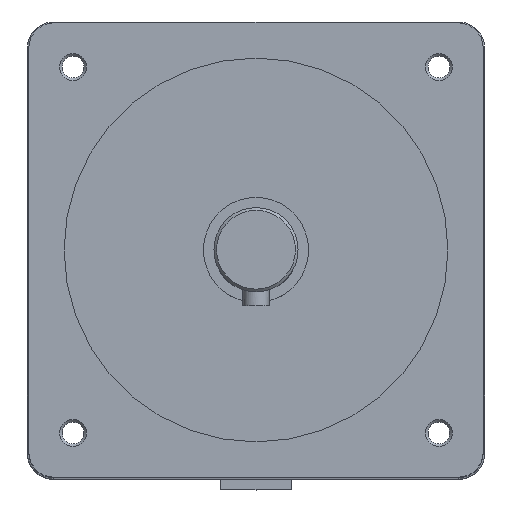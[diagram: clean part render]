
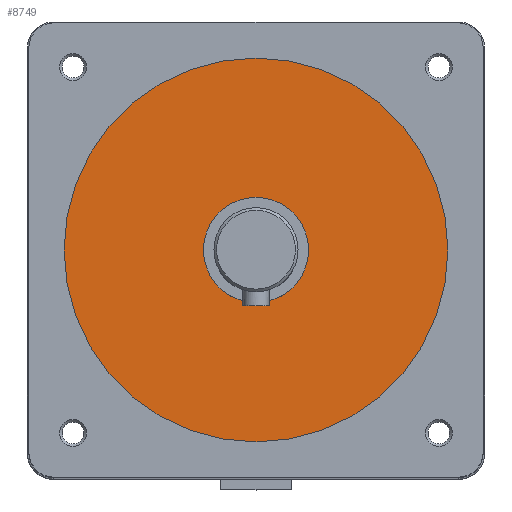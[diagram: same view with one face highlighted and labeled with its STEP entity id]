
A CAD part, top view. The second image highlights one B-rep face of the part: STEP entity #8749.
In plain terms, the highlighted planar face has unit normal (0, 0, 1).
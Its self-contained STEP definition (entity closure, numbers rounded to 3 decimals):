
#2241=FACE_BOUND('',#3158,.T.);
#2613=FACE_OUTER_BOUND('',#3157,.T.);
#3157=EDGE_LOOP('',(#7433));
#3158=EDGE_LOOP('',(#7434));
#3381=CIRCLE('',#9179,10.);
#3382=CIRCLE('',#9182,36.5);
#4165=VERTEX_POINT('',#15109);
#4166=VERTEX_POINT('',#15113);
#5294=EDGE_CURVE('',#4165,#4165,#3381,.T.);
#5295=EDGE_CURVE('',#4166,#4166,#3382,.T.);
#7433=ORIENTED_EDGE('',*,*,#5295,.T.);
#7434=ORIENTED_EDGE('',*,*,#5294,.T.);
#8353=PLANE('',#9183);
#8749=ADVANCED_FACE('',(#2613,#2241),#8353,.T.);
#9179=AXIS2_PLACEMENT_3D('',#15110,#10701,#10702);
#9182=AXIS2_PLACEMENT_3D('',#15114,#10707,#10708);
#9183=AXIS2_PLACEMENT_3D('',#15115,#10709,#10710);
#10701=DIRECTION('center_axis',(0.,0.,-1.));
#10702=DIRECTION('ref_axis',(-1.,0.,0.));
#10707=DIRECTION('center_axis',(0.,0.,1.));
#10708=DIRECTION('ref_axis',(-1.,0.,0.));
#10709=DIRECTION('center_axis',(0.,0.,1.));
#10710=DIRECTION('ref_axis',(1.,0.,0.));
#15109=CARTESIAN_POINT('',(53.5,43.5,85.1));
#15110=CARTESIAN_POINT('Origin',(43.5,43.5,85.1));
#15113=CARTESIAN_POINT('',(80.,43.5,85.1));
#15114=CARTESIAN_POINT('Origin',(43.5,43.5,85.1));
#15115=CARTESIAN_POINT('Origin',(43.5,43.5,85.1));
